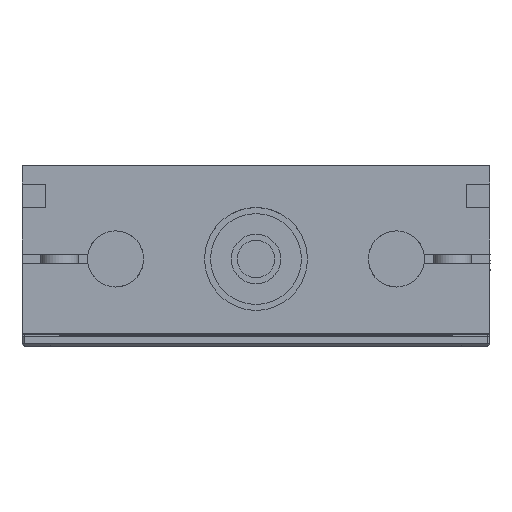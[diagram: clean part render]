
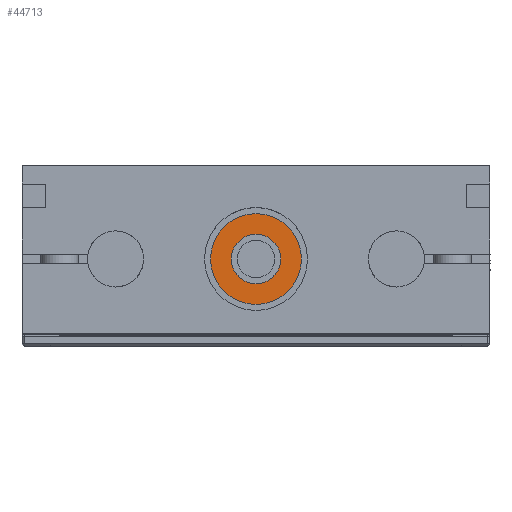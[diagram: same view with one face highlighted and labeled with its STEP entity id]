
A CAD part, top view. The second image highlights one B-rep face of the part: STEP entity #44713.
In plain terms, the highlighted planar face has unit normal (0, 0, 1) as drawn and (1, 0, 0) by its records, which use the part's own axes.
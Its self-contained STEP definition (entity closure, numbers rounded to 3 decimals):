
#206 = DIRECTION ( 'NONE',  ( 0., 0., 1. ) ) ;
#286 = CARTESIAN_POINT ( 'NONE',  ( 384.5, 20., 0. ) ) ;
#1244 = ORIENTED_EDGE ( 'NONE', *, *, #24731, .F. ) ;
#1290 = DIRECTION ( 'NONE',  ( 0., 0., 1. ) ) ;
#1554 = CARTESIAN_POINT ( 'NONE',  ( 384.5, 25.3, 0. ) ) ;
#4018 = CARTESIAN_POINT ( 'NONE',  ( 384.5, 20., 0. ) ) ;
#4235 = AXIS2_PLACEMENT_3D ( 'NONE', #1554, #38246, #1290 ) ;
#6959 = DIRECTION ( 'NONE',  ( 0., 0., 1. ) ) ;
#8394 = CARTESIAN_POINT ( 'NONE',  ( 384.5, 20., 0. ) ) ;
#9077 = CIRCLE ( 'NONE', #12438, 5.3 ) ;
#10533 = CARTESIAN_POINT ( 'NONE',  ( 384.5, 20., -5.3 ) ) ;
#12438 = AXIS2_PLACEMENT_3D ( 'NONE', #13370, #41365, #29467 ) ;
#13370 = CARTESIAN_POINT ( 'NONE',  ( 384.5, 20., 0. ) ) ;
#15410 = VERTEX_POINT ( 'NONE', #10533 ) ;
#17217 = EDGE_CURVE ( 'NONE', #15410, #39088, #26942, .T. ) ;
#17873 = CARTESIAN_POINT ( 'NONE',  ( 384.5, 20., 9.7 ) ) ;
#18461 = VERTEX_POINT ( 'NONE', #17873 ) ;
#19779 = CARTESIAN_POINT ( 'NONE',  ( 384.5, 20., -9.7 ) ) ;
#19919 = EDGE_LOOP ( 'NONE', ( #1244, #30990 ) ) ;
#20083 = DIRECTION ( 'NONE',  ( -1., 0., 0. ) ) ;
#22194 = CIRCLE ( 'NONE', #27257, 9.7 ) ;
#22932 = ORIENTED_EDGE ( 'NONE', *, *, #39850, .T. ) ;
#24254 = EDGE_LOOP ( 'NONE', ( #22932, #35270 ) ) ;
#24731 = EDGE_CURVE ( 'NONE', #18461, #28693, #51390, .T. ) ;
#26114 = AXIS2_PLACEMENT_3D ( 'NONE', #8394, #52216, #206 ) ;
#26424 = CARTESIAN_POINT ( 'NONE',  ( 384.5, 20., 5.3 ) ) ;
#26942 = CIRCLE ( 'NONE', #26114, 5.3 ) ;
#27257 = AXIS2_PLACEMENT_3D ( 'NONE', #4018, #48097, #6959 ) ;
#28693 = VERTEX_POINT ( 'NONE', #19779 ) ;
#29467 = DIRECTION ( 'NONE',  ( 0., 0., 1. ) ) ;
#29633 = EDGE_CURVE ( 'NONE', #28693, #18461, #22194, .T. ) ;
#30990 = ORIENTED_EDGE ( 'NONE', *, *, #29633, .F. ) ;
#34020 = PLANE ( 'NONE',  #4235 ) ;
#35270 = ORIENTED_EDGE ( 'NONE', *, *, #17217, .T. ) ;
#38246 = DIRECTION ( 'NONE',  ( -1., 0., 0. ) ) ;
#39088 = VERTEX_POINT ( 'NONE', #26424 ) ;
#39850 = EDGE_CURVE ( 'NONE', #39088, #15410, #9077, .T. ) ;
#41365 = DIRECTION ( 'NONE',  ( -1., 0., 0. ) ) ;
#44713 = ADVANCED_FACE ( 'NONE', ( #45364, #49594 ), #34020, .F. ) ;
#45364 = FACE_OUTER_BOUND ( 'NONE', #19919, .T. ) ;
#46309 = AXIS2_PLACEMENT_3D ( 'NONE', #286, #20083, #52033 ) ;
#48097 = DIRECTION ( 'NONE',  ( -1., 0., 0. ) ) ;
#49594 = FACE_BOUND ( 'NONE', #24254, .T. ) ;
#51390 = CIRCLE ( 'NONE', #46309, 9.7 ) ;
#52033 = DIRECTION ( 'NONE',  ( 0., 0., 1. ) ) ;
#52216 = DIRECTION ( 'NONE',  ( -1., 0., 0. ) ) ;
